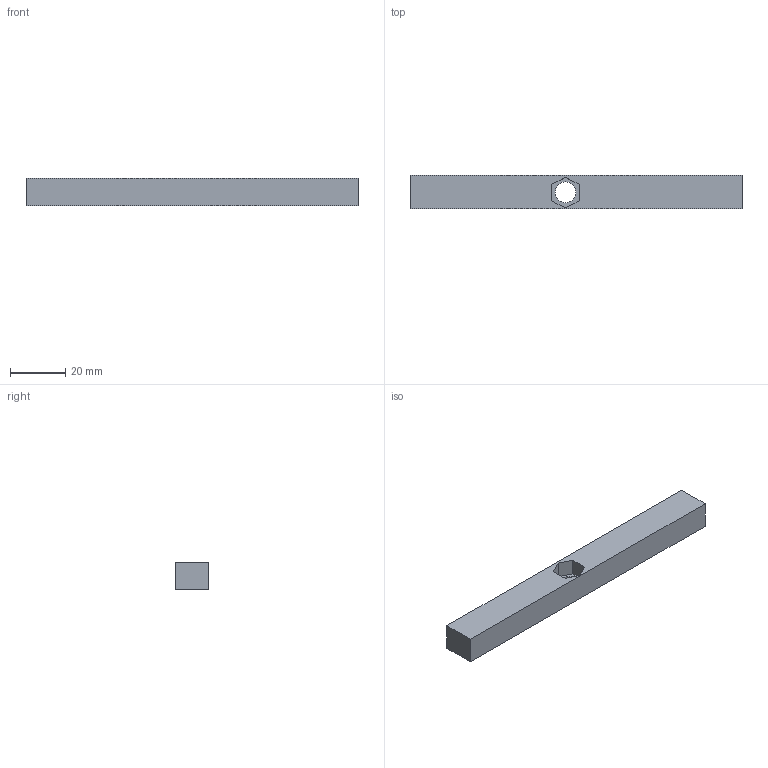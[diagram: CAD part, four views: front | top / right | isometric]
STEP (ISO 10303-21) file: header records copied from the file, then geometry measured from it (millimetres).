
FILE_DESCRIPTION(('STEP AP203'), '1');
FILE_NAME('up holder', '', ('UNSPECIFIED'), ('UNSPECIFIED'), 'ASCON STEP Converter 1.3', 'ASCON Math Kernel', '');
FILE_SCHEMA(('CONFIG_CONTROL_DESIGN'));
Length unit declared in the file: millimetre
Bounding box: 120 x 12 x 10 mm (x, y, z)
Volume: 13713.3 mm3; surface area: 5732.1 mm2
Topology: 1 solids, 1 shells, 14 faces, 33 edges, 22 vertices
Faces by surface type: plane 13, cylinder 1
Full cylindrical faces by diameter (mm): 7.5 x1
Entity records: 554 total; most frequent: CARTESIAN_POINT 69, DIRECTION 64, ORIENTED_EDGE 64, EDGE_CURVE 32, LINE 30, VECTOR 30, VERTEX_POINT 22, EDGE_LOOP 18
